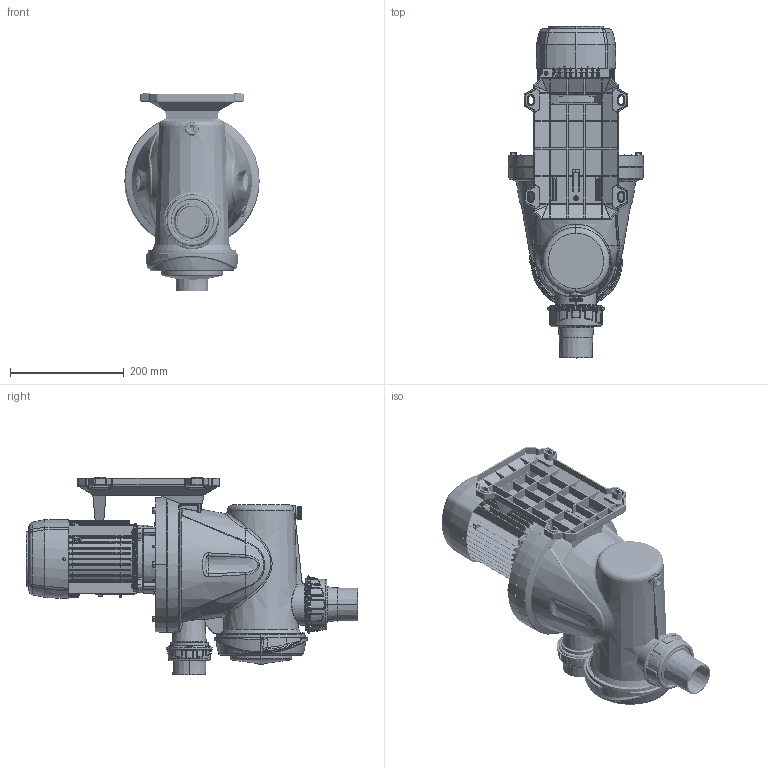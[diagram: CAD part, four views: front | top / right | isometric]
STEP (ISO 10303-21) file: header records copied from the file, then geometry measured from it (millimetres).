
FILE_DESCRIPTION((''),'2;1');
FILE_NAME('SILENS_PELL','2024-02-22T',('Usuari'),(''),'PRO/ENGINEER BY PARAMETRIC TECHNOLOGY CORPORATION, 2011490','PRO/ENGINEER BY PARAMETRIC TECHNOLOGY CORPORATION, 2011490','');
FILE_SCHEMA(('CONFIG_CONTROL_DESIGN'));
Length unit declared in the file: millimetre
Products named in the file (1): SILENS_PELL
Bounding box: 238 x 583.45 x 346.6 mm (x, y, z)
Surface area: 1072712.9 mm2 (no closed solid volume)
Topology: 0 solids, 252 shells, 4711 faces, 19394 edges, 14298 vertices
Faces by surface type: plane 1748, cylinder 1026, bspline 963, cone 554, torus 372, sphere 48
Entity records: 246795 total; most frequent: CARTESIAN_POINT 105278, ORIENTED_EDGE 28615, DIRECTION 24799, EDGE_CURVE 19386, VERTEX_POINT 14298, AXIS2_PLACEMENT_3D 8661, VECTOR 7477, LINE 7477
